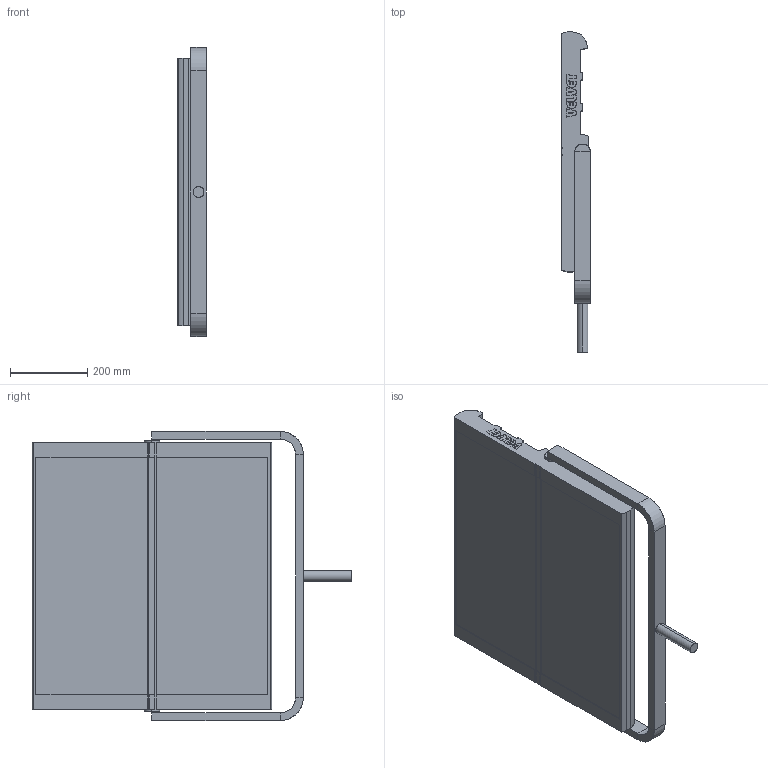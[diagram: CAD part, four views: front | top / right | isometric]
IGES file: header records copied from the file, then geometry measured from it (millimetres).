
Start section: SolidWorks IGES file using analytic representation for surfaces
Global section: file name: C:\Users\Eddy\Desktop\POWER2x2.IGS; native system: SolidWorks 2023; preprocessor: SolidWorks 2023; author: Eddy; date: 240714.160755; units: millimetre
Bounding box: 74.01 x 829.01 x 748.99 mm (x, y, z)
Surface area: 1240250.2 mm2 (no closed solid volume)
Topology: 0 solids, 0 shells, 327 faces, 4350 edges, 4350 vertices
Faces by surface type: bspline 290, revolution 37
